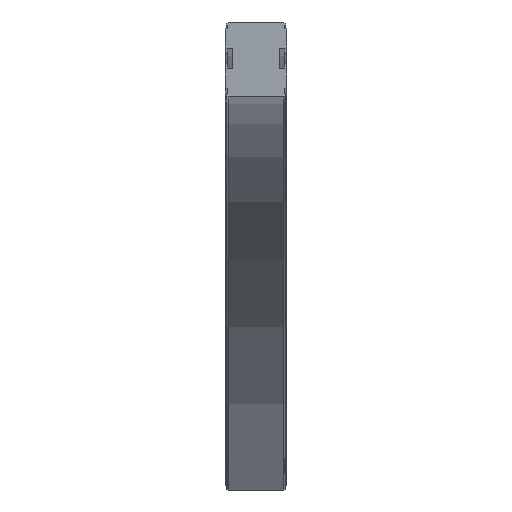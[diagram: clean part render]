
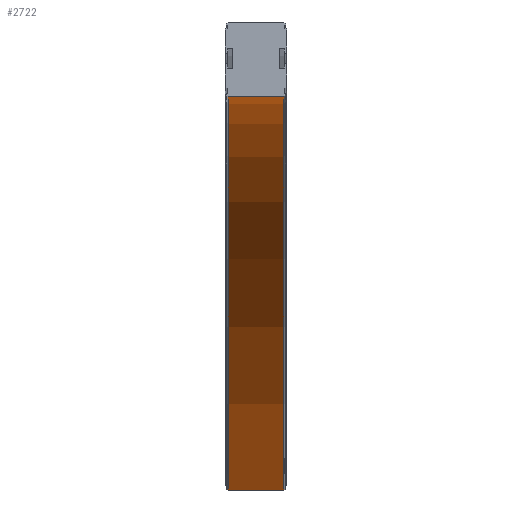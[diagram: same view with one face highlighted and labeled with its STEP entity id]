
A CAD part, left-side view. The second image highlights one B-rep face of the part: STEP entity #2722.
In plain terms, the highlighted cylindrical face has radius 820 mm (diameter 1640 mm), a partial arc.
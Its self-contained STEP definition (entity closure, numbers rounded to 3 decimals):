
#2664=CARTESIAN_POINT('',(710.141,29.,-488.));
#2665=VERTEX_POINT('',#2664);
#2672=CARTESIAN_POINT('',(0.0,29.,-78.));
#2673=VERTEX_POINT('',#2672);
#2674=CARTESIAN_POINT('',(0.0,29.,-898.0));
#2675=DIRECTION('',(0.0,1.0,0.0));
#2676=DIRECTION('',(0.0,0.0,1.0));
#2677=AXIS2_PLACEMENT_3D('',#2674,#2675,#2676);
#2678=CIRCLE('',#2677,820.);
#2679=EDGE_CURVE('',#2673,#2665,#2678,.T.);
#2691=CARTESIAN_POINT('',(0.0,0.,-898.0));
#2692=DIRECTION('',(0.0,1.0,0.0));
#2693=DIRECTION('',(0.0,0.0,1.0));
#2694=AXIS2_PLACEMENT_3D('',#2691,#2692,#2693);
#2695=CYLINDRICAL_SURFACE('',#2694,820.);
#2696=CARTESIAN_POINT('',(710.141,-29.,-488.));
#2697=VERTEX_POINT('',#2696);
#2698=CARTESIAN_POINT('',(710.141,29.,-488.));
#2699=DIRECTION('',(0.0,-1.0,0.0));
#2700=VECTOR('',#2699,58.);
#2701=LINE('',#2698,#2700);
#2702=EDGE_CURVE('',#2665,#2697,#2701,.T.);
#2703=ORIENTED_EDGE('',*,*,#2702,.T.);
#2704=CARTESIAN_POINT('',(0.0,-29.,-78.));
#2705=VERTEX_POINT('',#2704);
#2706=CARTESIAN_POINT('',(0.0,-29.,-898.0));
#2707=DIRECTION('',(0.0,1.0,0.0));
#2708=DIRECTION('',(0.0,0.0,1.0));
#2709=AXIS2_PLACEMENT_3D('',#2706,#2707,#2708);
#2710=CIRCLE('',#2709,820.);
#2711=EDGE_CURVE('',#2705,#2697,#2710,.T.);
#2712=ORIENTED_EDGE('',*,*,#2711,.F.);
#2713=CARTESIAN_POINT('',(0.0,-29.,-78.));
#2714=DIRECTION('',(0.0,1.0,0.0));
#2715=VECTOR('',#2714,58.);
#2716=LINE('',#2713,#2715);
#2717=EDGE_CURVE('',#2705,#2673,#2716,.T.);
#2718=ORIENTED_EDGE('',*,*,#2717,.T.);
#2719=ORIENTED_EDGE('',*,*,#2679,.T.);
#2720=EDGE_LOOP('',(#2703,#2712,#2718,#2719));
#2721=FACE_OUTER_BOUND('',#2720,.T.);
#2722=ADVANCED_FACE('',(#2721),#2695,.F.);
